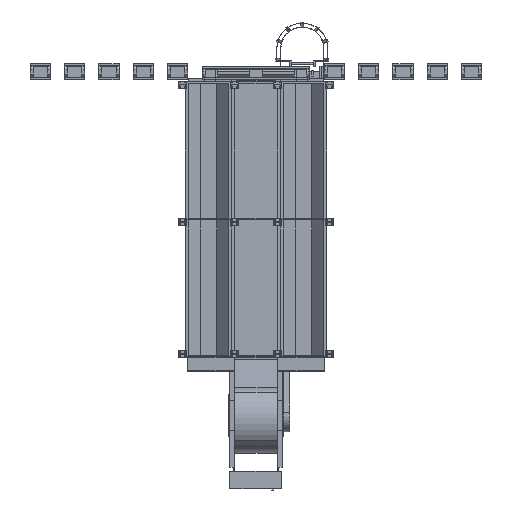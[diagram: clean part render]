
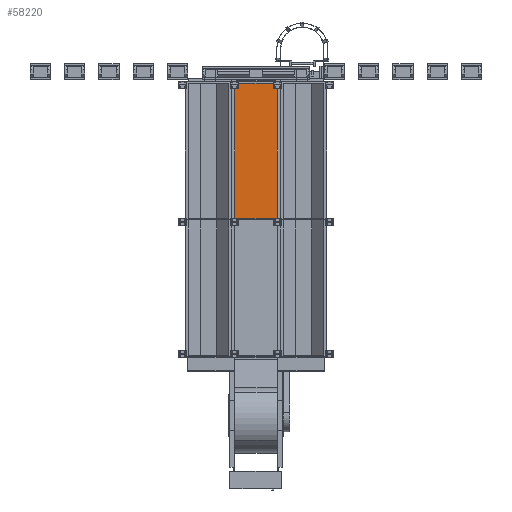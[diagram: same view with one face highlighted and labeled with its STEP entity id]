
A CAD part, front view. The second image highlights one B-rep face of the part: STEP entity #58220.
In plain terms, the highlighted planar face has unit normal (0, -1, 0) as drawn and (0, 0, -1) by its records, which use the part's own axes.
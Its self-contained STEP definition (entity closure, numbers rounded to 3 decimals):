
#3142=FACE_OUTER_BOUND('',#6131,.T.);
#6131=EDGE_LOOP('',(#38956,#38957,#38958,#38959));
#9826=LINE('',#82655,#17034);
#9829=LINE('',#82661,#17037);
#9895=LINE('',#82799,#17103);
#9896=LINE('',#82800,#17104);
#17034=VECTOR('',#66477,0.394);
#17037=VECTOR('',#66482,0.394);
#17103=VECTOR('',#66572,0.394);
#17104=VECTOR('',#66573,0.394);
#24155=VERTEX_POINT('',#82648);
#24158=VERTEX_POINT('',#82653);
#24159=VERTEX_POINT('',#82657);
#24220=VERTEX_POINT('',#82798);
#29935=EDGE_CURVE('',#24158,#24155,#9826,.T.);
#29938=EDGE_CURVE('',#24155,#24159,#9829,.T.);
#30004=EDGE_CURVE('',#24220,#24159,#9895,.T.);
#30005=EDGE_CURVE('',#24220,#24158,#9896,.T.);
#38956=ORIENTED_EDGE('',*,*,#30004,.T.);
#38957=ORIENTED_EDGE('',*,*,#29938,.F.);
#38958=ORIENTED_EDGE('',*,*,#29935,.F.);
#38959=ORIENTED_EDGE('',*,*,#30005,.F.);
#55866=PLANE('',#61676);
#58220=ADVANCED_FACE('',(#3142),#55866,.F.);
#61676=AXIS2_PLACEMENT_3D('',#82797,#66570,#66571);
#66477=DIRECTION('',(0.,-1.,0.));
#66482=DIRECTION('',(1.,0.,0.));
#66570=DIRECTION('center_axis',(0.,0.,1.));
#66571=DIRECTION('ref_axis',(1.,0.,0.));
#66572=DIRECTION('',(0.,-1.,0.));
#66573=DIRECTION('',(-1.,0.,0.));
#82648=CARTESIAN_POINT('',(-288.,-47.25,0.));
#82653=CARTESIAN_POINT('',(-288.,47.25,0.));
#82655=CARTESIAN_POINT('',(-288.,47.25,0.));
#82657=CARTESIAN_POINT('',(-192.004,-47.25,0.));
#82661=CARTESIAN_POINT('',(-288.,-47.25,0.));
#82797=CARTESIAN_POINT('Origin',(-144.,0.,0.));
#82798=CARTESIAN_POINT('',(-192.004,47.25,0.));
#82799=CARTESIAN_POINT('',(-192.004,2.638,0.));
#82800=CARTESIAN_POINT('',(0.,47.25,0.));
